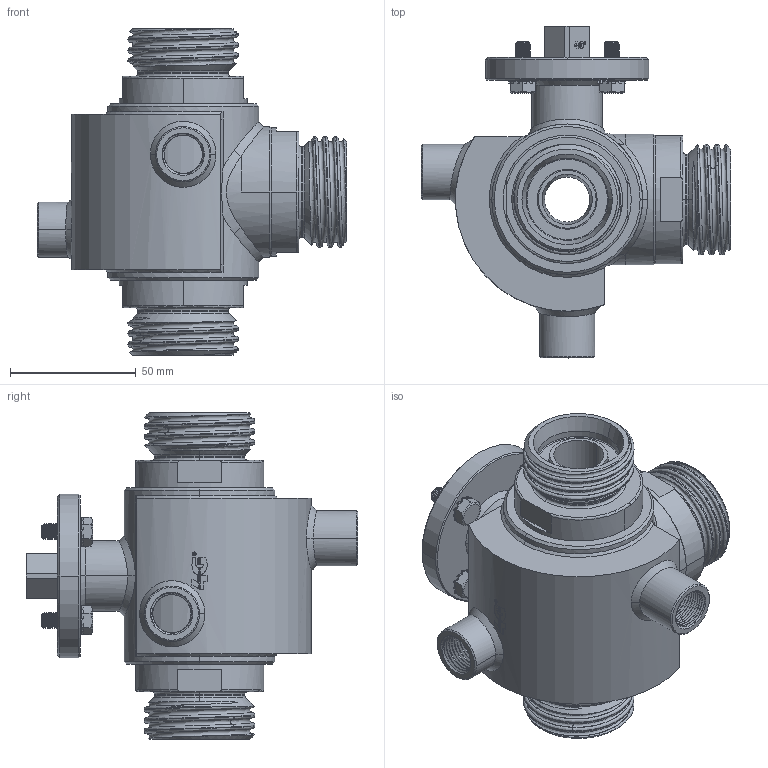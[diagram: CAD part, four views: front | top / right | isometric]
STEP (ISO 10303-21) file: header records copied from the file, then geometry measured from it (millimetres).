
FILE_DESCRIPTION((''),'2;1');
FILE_NAME('303025C6201F_SW0001','2024-11-20T10:56:04',('tecnico2'),('CDM Tecnoconsulting'),'CREO PARAMETRIC BY PTC INC, 2024063','CREO PARAMETRIC BY PTC INC, 2024063','');
FILE_SCHEMA(('CONFIG_CONTROL_DESIGN','SHAPE_APPEARANCE_LAYERS_GROUPS'));
Products named in the file (1): 303025C6201F_SW0001
Bounding box: 123 x 132 x 130 mm (x, y, z)
Volume: 332516.6 mm3; surface area: 113451.6 mm2
Topology: 1 solids, 1 shells, 1955 faces, 5360 edges, 3387 vertices
Faces by surface type: plane 757, cylinder 528, cone 204, bspline 193, extrusion 167, torus 104, sphere 2
Entity records: 159244 total; most frequent: CARTESIAN_POINT 96596, ORIENTED_EDGE 10700, DIRECTION 7781, PRESENTATION_STYLE_ASSIGNMENT 5442, STYLED_ITEM 5351, CURVE_STYLE 5350, EDGE_CURVE 5350, VERTEX_POINT 3387
